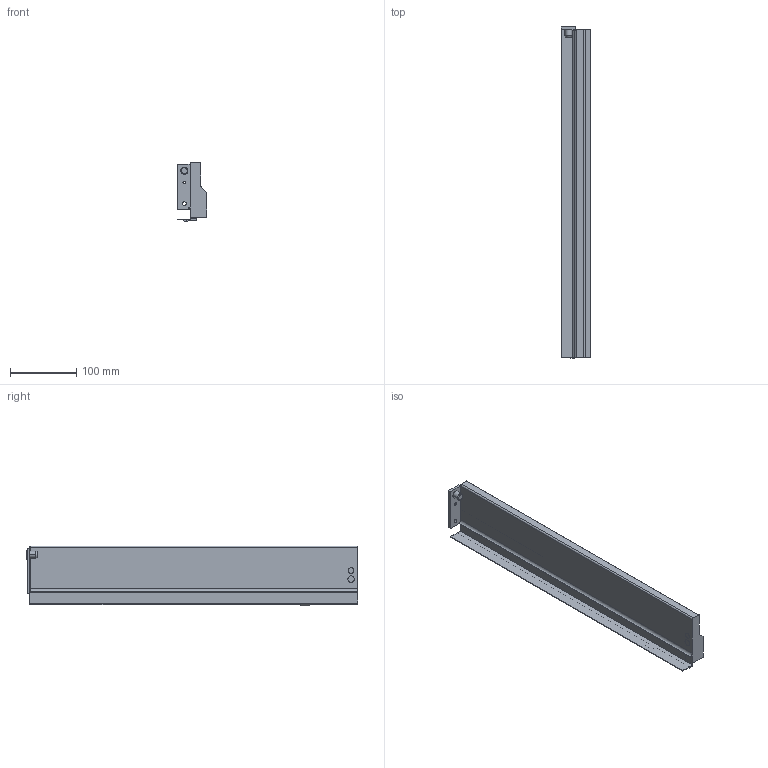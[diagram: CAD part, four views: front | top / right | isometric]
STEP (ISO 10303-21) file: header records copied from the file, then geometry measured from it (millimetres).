
FILE_DESCRIPTION (( 'STEP AP214' ), '1' );
FILE_NAME ('_IMOS_NOVA-Pro_Dekor-H90_CL_NL500_RE.step', '2010-07-06T09:00:23', ( 'grass' ), ( '' ), 'SwSTEP 2.0', 'SolidWorks 2009', '' );
FILE_SCHEMA (( 'AUTOMOTIVE_DESIGN' ));
Length unit declared in the file: millimetre
Products named in the file (1): _IMOS_NOVA-Pro_Dekor-H90_CL_NL500_RE
Bounding box: 44.3 x 502.7 x 90.49 mm (x, y, z)
Volume: 443284.3 mm3; surface area: 173398.5 mm2
Topology: 1 solids, 1 shells, 89 faces, 239 edges, 156 vertices
Faces by surface type: plane 57, cylinder 27, cone 4, bspline 1
Entity records: 2825 total; most frequent: CARTESIAN_POINT 506, ORIENTED_EDGE 478, DIRECTION 474, EDGE_CURVE 239, LINE 178, VECTOR 178, VERTEX_POINT 156, AXIS2_PLACEMENT_3D 148
